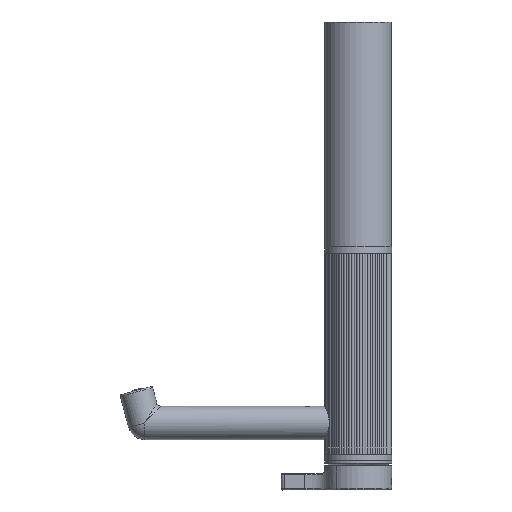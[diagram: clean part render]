
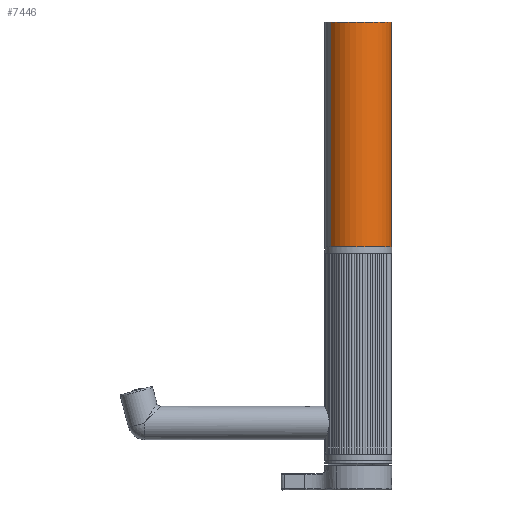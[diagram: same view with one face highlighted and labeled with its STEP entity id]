
A CAD part, front view. The second image highlights one B-rep face of the part: STEP entity #7446.
In plain terms, the highlighted cylindrical face has radius 25 mm (diameter 50 mm), a partial arc.
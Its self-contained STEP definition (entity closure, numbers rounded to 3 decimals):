
#1075 = ORIENTED_EDGE ( 'NONE', *, *, #43960, .T. ) ;
#1630 = DIRECTION ( 'NONE',  ( 0., -1., 0. ) ) ;
#3674 = DIRECTION ( 'NONE',  ( 0., 0., -1. ) ) ;
#4271 = CARTESIAN_POINT ( 'NONE',  ( 0., 168., -25. ) ) ;
#5535 = ORIENTED_EDGE ( 'NONE', *, *, #54231, .T. ) ;
#5672 = VERTEX_POINT ( 'NONE', #36021 ) ;
#7182 = ORIENTED_EDGE ( 'NONE', *, *, #43226, .F. ) ;
#7446 = ADVANCED_FACE ( 'NONE', ( #47844 ), #16815, .T. ) ;
#8413 = CARTESIAN_POINT ( 'NONE',  ( 0., 168., 0. ) ) ;
#9036 = AXIS2_PLACEMENT_3D ( 'NONE', #8413, #44048, #13037 ) ;
#11716 = CIRCLE ( 'NONE', #44390, 25. ) ;
#13037 = DIRECTION ( 'NONE',  ( 0., 0., 1. ) ) ;
#16815 = CYLINDRICAL_SURFACE ( 'NONE', #31681, 25. ) ;
#20527 = EDGE_LOOP ( 'NONE', ( #7182, #54574, #5535, #1075 ) ) ;
#20922 = DIRECTION ( 'NONE',  ( 0., -1., 0. ) ) ;
#22085 = DIRECTION ( 'NONE',  ( 0., -1., 0. ) ) ;
#24700 = LINE ( 'NONE', #54876, #33131 ) ;
#30277 = LINE ( 'NONE', #4271, #52534 ) ;
#30805 = DIRECTION ( 'NONE',  ( 0., 1., 0. ) ) ;
#31681 = AXIS2_PLACEMENT_3D ( 'NONE', #34377, #20922, #3674 ) ;
#31685 = DIRECTION ( 'NONE',  ( 0., 0., 1. ) ) ;
#33131 = VECTOR ( 'NONE', #1630, 1000. ) ;
#34377 = CARTESIAN_POINT ( 'NONE',  ( 0., 168., 0. ) ) ;
#35384 = VERTEX_POINT ( 'NONE', #47519 ) ;
#36021 = CARTESIAN_POINT ( 'NONE',  ( 0., 0., 25. ) ) ;
#42885 = EDGE_CURVE ( 'NONE', #46945, #55049, #54789, .T. ) ;
#43226 = EDGE_CURVE ( 'NONE', #55049, #5672, #24700, .T. ) ;
#43960 = EDGE_CURVE ( 'NONE', #35384, #5672, #11716, .T. ) ;
#44048 = DIRECTION ( 'NONE',  ( 0., 1., 0. ) ) ;
#44390 = AXIS2_PLACEMENT_3D ( 'NONE', #53062, #30805, #31685 ) ;
#46945 = VERTEX_POINT ( 'NONE', #50646 ) ;
#47519 = CARTESIAN_POINT ( 'NONE',  ( 0., 0., -25. ) ) ;
#47844 = FACE_OUTER_BOUND ( 'NONE', #20527, .T. ) ;
#48504 = CARTESIAN_POINT ( 'NONE',  ( 0., 168., 25. ) ) ;
#50646 = CARTESIAN_POINT ( 'NONE',  ( 0., 168., -25. ) ) ;
#52534 = VECTOR ( 'NONE', #22085, 1000. ) ;
#53062 = CARTESIAN_POINT ( 'NONE',  ( 0., 0., 0. ) ) ;
#54231 = EDGE_CURVE ( 'NONE', #46945, #35384, #30277, .T. ) ;
#54574 = ORIENTED_EDGE ( 'NONE', *, *, #42885, .F. ) ;
#54789 = CIRCLE ( 'NONE', #9036, 25. ) ;
#54876 = CARTESIAN_POINT ( 'NONE',  ( 0., 168., 25. ) ) ;
#55049 = VERTEX_POINT ( 'NONE', #48504 ) ;
